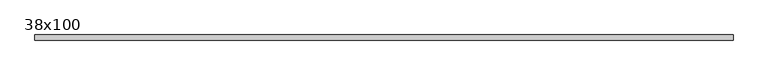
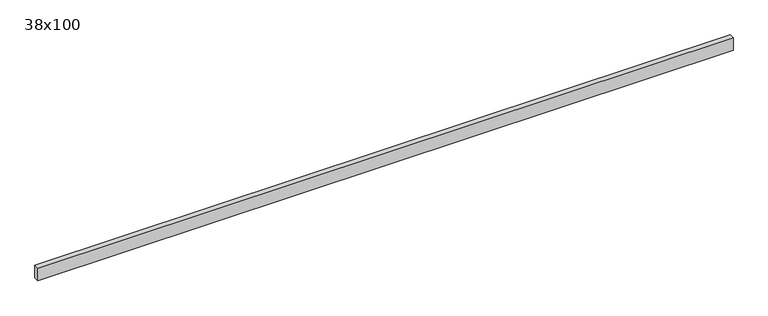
"""IFC4 building model written with IfcOpenShell, lengths in millimetres: beam geometry, Poutre - Bois de construction de dimensions courantes : 38x100."""

from ifc_helpers import new_model, si_unit, frame, origin, place, context, project, spatial, polyline, outline, extrude, source, transform, mapped, element, save


def beam_38x100_cf675489(model_context):
    return source(origin(), model_context, "Body", "SweptSolid", [
        extrude(outline(polyline([(2612.5, 19.05), (2612.5, -19.05), (-2612.5, -19.05), (-2612.5, 19.05), (2612.5, 19.05)])), frame((0.0, 0.0, -50.0), z_axis=(0.0, 0.0, 1.0), x_axis=(1.0, 0.0, 0.0)), (0.0, 0.0, 1.0), 100.0),
    ])


if __name__ == "__main__":
    model = new_model("IFC4")
    model_context = context("Model", 3, world=origin())
    ifc_project = project(units=[si_unit("LENGTHUNIT", "METRE", prefix="MILLI")], contexts=[model_context])
    site = spatial("IfcSite", under=ifc_project)
    building = spatial("IfcBuilding", under=site)
    placement = place(None, origin())
    beam_38x100_shape = beam_38x100_cf675489(model_context)
    element("IfcBeam", 1, ObjectType="Poutre - Bois de construction de dimensions courantes : 38x100", at=placement, inside=building, context=model_context, shape_type="MappedRepresentation", body=[
        mapped(beam_38x100_shape, transform((0.0, 0.0, 0.0), x_axis=(1.0, 0.0, 0.0), y_axis=(0.0, 1.0, 0.0), z_axis=(0.0, 0.0, 1.0))),
    ])
    save(model, "model.ifc")
